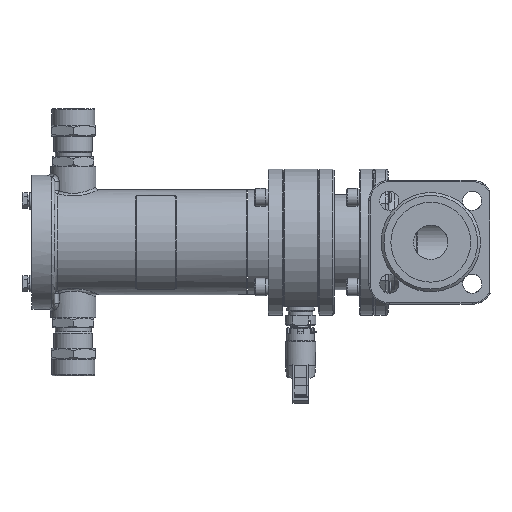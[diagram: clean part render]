
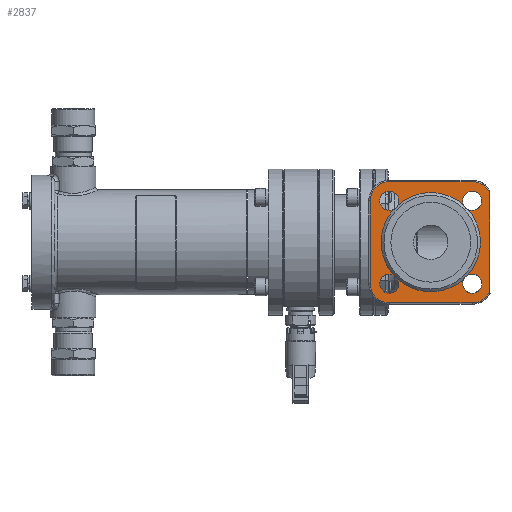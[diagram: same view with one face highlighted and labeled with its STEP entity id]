
A CAD part, left-side view. The second image highlights one B-rep face of the part: STEP entity #2837.
In plain terms, the highlighted planar face has unit normal (-1, 0, 0).
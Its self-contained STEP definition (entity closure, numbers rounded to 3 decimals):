
#2837=ADVANCED_FACE('',(#31183,#31185),#31187,.T.);
#31183=FACE_BOUND('',#31184,.T.);
#31184=EDGE_LOOP('',(#58970,#58971,#58972,#58973,#58974,#58975,#58976,#58977));
#31185=FACE_BOUND('',#31186,.T.);
#31186=EDGE_LOOP('',(#58978,#58979,#58980,#58981,#58982,#58983,#58984,#58985,#58986,
#58987,#58988,#58989,#58990));
#31187=PLANE('',#31188);
#31188=AXIS2_PLACEMENT_3D('',#31189,#31190,#31191);
#31189=CARTESIAN_POINT('',(-96.,0.,0.));
#31190=DIRECTION('',(-1.,0.,0.));
#31191=DIRECTION('',(0.,1.,0.));
#58970=ORIENTED_EDGE('',*,*,#73883,.T.);
#58971=ORIENTED_EDGE('',*,*,#74155,.T.);
#58972=ORIENTED_EDGE('',*,*,#74156,.T.);
#58973=ORIENTED_EDGE('',*,*,#74157,.T.);
#58974=ORIENTED_EDGE('',*,*,#74158,.T.);
#58975=ORIENTED_EDGE('',*,*,#74159,.T.);
#58976=ORIENTED_EDGE('',*,*,#74160,.T.);
#58977=ORIENTED_EDGE('',*,*,#74161,.T.);
#58978=ORIENTED_EDGE('',*,*,#73900,.T.);
#58979=ORIENTED_EDGE('',*,*,#73902,.T.);
#58980=ORIENTED_EDGE('',*,*,#74162,.T.);
#58981=ORIENTED_EDGE('',*,*,#73905,.T.);
#58982=ORIENTED_EDGE('',*,*,#73904,.T.);
#58983=ORIENTED_EDGE('',*,*,#74163,.T.);
#58984=ORIENTED_EDGE('',*,*,#73907,.T.);
#58985=ORIENTED_EDGE('',*,*,#73906,.T.);
#58986=ORIENTED_EDGE('',*,*,#74164,.T.);
#58987=ORIENTED_EDGE('',*,*,#73909,.T.);
#58988=ORIENTED_EDGE('',*,*,#73911,.T.);
#58989=ORIENTED_EDGE('',*,*,#74165,.T.);
#58990=ORIENTED_EDGE('',*,*,#74166,.T.);
#73883=EDGE_CURVE('',#82564,#82562,#82565,.F.);
#73900=EDGE_CURVE('',#82590,#82591,#82592,.F.);
#73902=EDGE_CURVE('',#82591,#82593,#82595,.F.);
#73904=EDGE_CURVE('',#82599,#82596,#82600,.F.);
#73905=EDGE_CURVE('',#82597,#82599,#82601,.F.);
#73906=EDGE_CURVE('',#82602,#82603,#82604,.F.);
#73907=EDGE_CURVE('',#82605,#82602,#82606,.F.);
#73909=EDGE_CURVE('',#82608,#82609,#82610,.F.);
#73911=EDGE_CURVE('',#82609,#82611,#82613,.F.);
#74155=EDGE_CURVE('',#82562,#83073,#83075,.T.);
#74156=EDGE_CURVE('',#83073,#83076,#83077,.T.);
#74157=EDGE_CURVE('',#83076,#83078,#83079,.T.);
#74158=EDGE_CURVE('',#83078,#83080,#83081,.T.);
#74159=EDGE_CURVE('',#83080,#83082,#83083,.T.);
#74160=EDGE_CURVE('',#83082,#83084,#83085,.T.);
#74161=EDGE_CURVE('',#83084,#82564,#83086,.T.);
#74162=EDGE_CURVE('',#82593,#82597,#83087,.T.);
#74163=EDGE_CURVE('',#82596,#82605,#83088,.T.);
#74164=EDGE_CURVE('',#82603,#82608,#83089,.T.);
#74165=EDGE_CURVE('',#82611,#83090,#83091,.T.);
#74166=EDGE_CURVE('',#83090,#82590,#83092,.T.);
#82562=VERTEX_POINT('',#98490);
#82564=VERTEX_POINT('',#98564);
#82565=LINE('',#98565,#98566);
#82590=VERTEX_POINT('',#98776);
#82591=VERTEX_POINT('',#98777);
#82592=CIRCLE('',#98778,7.);
#82593=VERTEX_POINT('',#98782);
#82595=CIRCLE('',#98829,7.);
#82596=VERTEX_POINT('',#98833);
#82597=VERTEX_POINT('',#98834);
#82599=VERTEX_POINT('',#98881);
#82600=CIRCLE('',#98882,7.);
#82601=CIRCLE('',#98886,7.);
#82602=VERTEX_POINT('',#98890);
#82603=VERTEX_POINT('',#98891);
#82604=CIRCLE('',#98892,7.);
#82605=VERTEX_POINT('',#98896);
#82606=CIRCLE('',#98897,7.);
#82608=VERTEX_POINT('',#98947);
#82609=VERTEX_POINT('',#98948);
#82610=CIRCLE('',#98949,7.);
#82611=VERTEX_POINT('',#98953);
#82613=CIRCLE('',#99000,7.);
#83073=VERTEX_POINT('',#100704);
#83075=CIRCLE('',#100709,14.);
#83076=VERTEX_POINT('',#100713);
#83077=LINE('',#100714,#100715);
#83078=VERTEX_POINT('',#100717);
#83079=CIRCLE('',#100718,14.);
#83080=VERTEX_POINT('',#100722);
#83081=LINE('',#100723,#100724);
#83082=VERTEX_POINT('',#100726);
#83083=CIRCLE('',#100727,14.);
#83084=VERTEX_POINT('',#100731);
#83085=LINE('',#100732,#100733);
#83086=CIRCLE('',#100735,14.);
#83087=CIRCLE('',#100739,36.);
#83088=CIRCLE('',#100743,36.);
#83089=CIRCLE('',#100747,36.);
#83090=VERTEX_POINT('',#100751);
#83091=CIRCLE('',#100752,36.);
#83092=CIRCLE('',#100756,36.);
#98490=CARTESIAN_POINT('',(-96.,-43.,35.196));
#98564=CARTESIAN_POINT('',(-96.,-43.,-35.196));
#98565=CARTESIAN_POINT('',(-96.,-43.,35.196));
#98566=VECTOR('',#98567,1.);
#98567=DIRECTION('',(0.,0.,-1.));
#98776=CARTESIAN_POINT('',(-96.,27.09,23.71));
#98777=CARTESIAN_POINT('',(-96.,30.052,23.052));
#98778=AXIS2_PLACEMENT_3D('',#98779,#98780,#98781);
#98779=CARTESIAN_POINT('',(-96.,30.052,30.052));
#98780=DIRECTION('',(-1.,0.,0.));
#98781=DIRECTION('',(0.,0.,-1.));
#98782=CARTESIAN_POINT('',(-96.,23.71,27.09));
#98829=AXIS2_PLACEMENT_3D('',#98830,#98831,#98832);
#98830=CARTESIAN_POINT('',(-96.,30.052,30.052));
#98831=DIRECTION('',(-1.,0.,0.));
#98832=DIRECTION('',(0.,-0.906,-0.423));
#98833=CARTESIAN_POINT('',(-96.,-27.09,23.71));
#98834=CARTESIAN_POINT('',(-96.,-23.71,27.09));
#98881=CARTESIAN_POINT('',(-96.,-30.052,23.052));
#98882=AXIS2_PLACEMENT_3D('',#98883,#98884,#98885);
#98883=CARTESIAN_POINT('',(-96.,-30.052,30.052));
#98884=DIRECTION('',(-1.,0.,0.));
#98885=DIRECTION('',(0.,0.423,-0.906));
#98886=AXIS2_PLACEMENT_3D('',#98887,#98888,#98889);
#98887=CARTESIAN_POINT('',(-96.,-30.052,30.052));
#98888=DIRECTION('',(-1.,0.,0.));
#98889=DIRECTION('',(0.,0.,-1.));
#98890=CARTESIAN_POINT('',(-96.,-30.052,-37.052));
#98891=CARTESIAN_POINT('',(-96.,-23.71,-27.09));
#98892=AXIS2_PLACEMENT_3D('',#98893,#98894,#98895);
#98893=CARTESIAN_POINT('',(-96.,-30.052,-30.052));
#98894=DIRECTION('',(-1.,0.,0.));
#98895=DIRECTION('',(0.,0.906,0.423));
#98896=CARTESIAN_POINT('',(-96.,-27.09,-23.71));
#98897=AXIS2_PLACEMENT_3D('',#98898,#98899,#98900);
#98898=CARTESIAN_POINT('',(-96.,-30.052,-30.052));
#98899=DIRECTION('',(-1.,0.,0.));
#98900=DIRECTION('',(0.,0.,-1.));
#98947=CARTESIAN_POINT('',(-96.,23.71,-27.09));
#98948=CARTESIAN_POINT('',(-96.,30.052,-37.052));
#98949=AXIS2_PLACEMENT_3D('',#98950,#98951,#98952);
#98950=CARTESIAN_POINT('',(-96.,30.052,-30.052));
#98951=DIRECTION('',(-1.,0.,0.));
#98952=DIRECTION('',(0.,0.,-1.));
#98953=CARTESIAN_POINT('',(-96.,27.09,-23.71));
#99000=AXIS2_PLACEMENT_3D('',#99001,#99002,#99003);
#99001=CARTESIAN_POINT('',(-96.,30.052,-30.052));
#99002=DIRECTION('',(-1.,0.,0.));
#99003=DIRECTION('',(0.,-0.423,0.906));
#100704=CARTESIAN_POINT('',(-96.,-30.,44.));
#100709=AXIS2_PLACEMENT_3D('',#100710,#100711,#100712);
#100710=CARTESIAN_POINT('',(-96.,-30.,30.));
#100711=DIRECTION('',(-1.,0.,0.));
#100712=DIRECTION('',(0.,-0.929,0.371));
#100713=CARTESIAN_POINT('',(-96.,30.,44.));
#100714=CARTESIAN_POINT('',(-96.,-30.,44.));
#100715=VECTOR('',#100716,1.);
#100716=DIRECTION('',(0.,1.,0.));
#100717=CARTESIAN_POINT('',(-96.,44.,30.));
#100718=AXIS2_PLACEMENT_3D('',#100719,#100720,#100721);
#100719=CARTESIAN_POINT('',(-96.,30.,30.));
#100720=DIRECTION('',(-1.,0.,0.));
#100721=DIRECTION('',(0.,0.,1.));
#100722=CARTESIAN_POINT('',(-96.,44.,-30.));
#100723=CARTESIAN_POINT('',(-96.,44.,30.));
#100724=VECTOR('',#100725,1.);
#100725=DIRECTION('',(0.,0.,-1.));
#100726=CARTESIAN_POINT('',(-96.,30.,-44.));
#100727=AXIS2_PLACEMENT_3D('',#100728,#100729,#100730);
#100728=CARTESIAN_POINT('',(-96.,30.,-30.));
#100729=DIRECTION('',(-1.,0.,0.));
#100730=DIRECTION('',(0.,1.,0.));
#100731=CARTESIAN_POINT('',(-96.,-30.,-44.));
#100732=CARTESIAN_POINT('',(-96.,30.,-44.));
#100733=VECTOR('',#100734,1.);
#100734=DIRECTION('',(0.,-1.,0.));
#100735=AXIS2_PLACEMENT_3D('',#100736,#100737,#100738);
#100736=CARTESIAN_POINT('',(-96.,-30.,-30.));
#100737=DIRECTION('',(-1.,0.,0.));
#100738=DIRECTION('',(0.,0.,-1.));
#100739=AXIS2_PLACEMENT_3D('',#100740,#100741,#100742);
#100740=CARTESIAN_POINT('',(-96.,0.,0.));
#100741=DIRECTION('',(1.,0.,0.));
#100742=DIRECTION('',(0.,0.659,0.752));
#100743=AXIS2_PLACEMENT_3D('',#100744,#100745,#100746);
#100744=CARTESIAN_POINT('',(-96.,0.,0.));
#100745=DIRECTION('',(1.,0.,0.));
#100746=DIRECTION('',(0.,-0.752,0.659));
#100747=AXIS2_PLACEMENT_3D('',#100748,#100749,#100750);
#100748=CARTESIAN_POINT('',(-96.,0.,0.));
#100749=DIRECTION('',(1.,0.,0.));
#100750=DIRECTION('',(0.,-0.659,-0.752));
#100751=CARTESIAN_POINT('',(-96.,36.,0.));
#100752=AXIS2_PLACEMENT_3D('',#100753,#100754,#100755);
#100753=CARTESIAN_POINT('',(-96.,0.,0.));
#100754=DIRECTION('',(1.,0.,0.));
#100755=DIRECTION('',(0.,0.752,-0.659));
#100756=AXIS2_PLACEMENT_3D('',#100757,#100758,#100759);
#100757=CARTESIAN_POINT('',(-96.,0.,0.));
#100758=DIRECTION('',(1.,0.,0.));
#100759=DIRECTION('',(0.,1.,0.));
